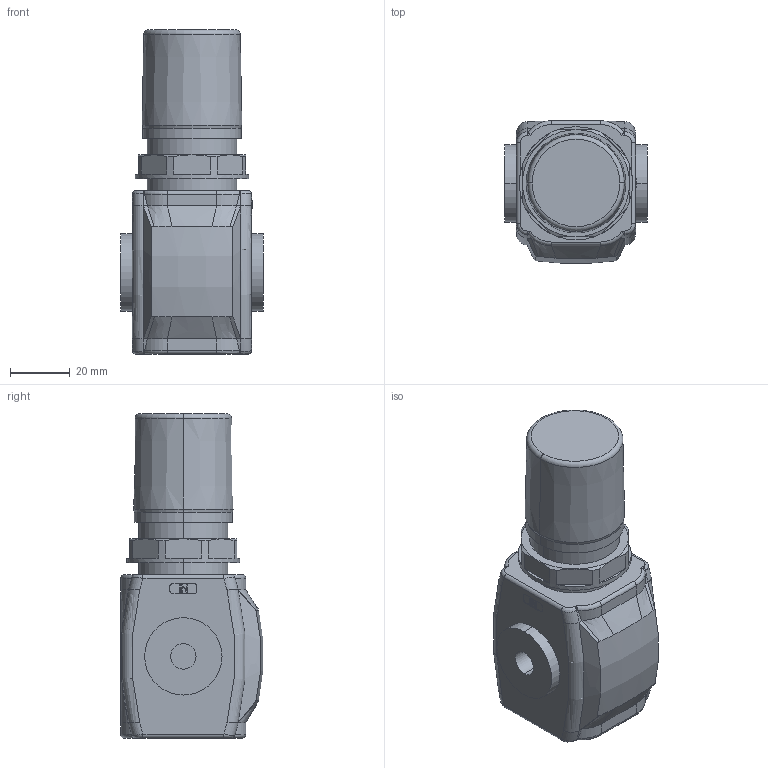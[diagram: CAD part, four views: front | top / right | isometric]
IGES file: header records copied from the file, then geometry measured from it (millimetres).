
Global section: file name: No Iges File Name specified; native system: Autodesk Inventor 2010; preprocessor: AutoDesk Inventor Iges Exporter R2010; author: valotma1; date: 20100911.094014; units: millimetre
Bounding box: 48 x 47.82 x 109 mm (x, y, z)
Volume: 145321.7 mm3; surface area: 25206.2 mm2
Topology: 5 solids, 5 shells, 343 faces, 814 edges, 516 vertices
Faces by surface type: plane 142, bspline 82, cylinder 54, revolution 33, torus 22, cone 10
